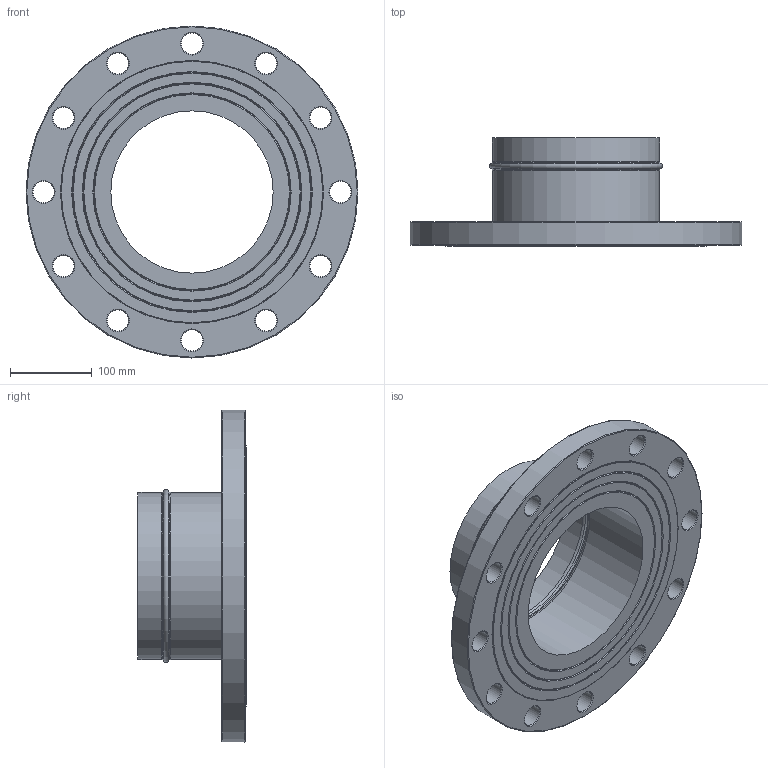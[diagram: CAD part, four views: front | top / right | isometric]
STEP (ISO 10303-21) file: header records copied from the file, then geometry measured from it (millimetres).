
FILE_DESCRIPTION(/* description */ (''),/* implementation_level */ '2;1');
FILE_NAME(/* name */ '30271121101.stp',/* time_stamp */ '2024-01-29T10:42:24+08:00',/* author */ (''),/* organization */ (''),/* preprocessor_version */ 'ST-DEVELOPER v11',/* originating_system */ 'SIEMENS PLM Software NX 7.5',/* authorisation */ '');
FILE_SCHEMA (('CONFIG_CONTROL_DESIGN'));
Length unit declared in the file: millimetre
Products named in the file (1): Admi5E3402l7
Bounding box: 405 x 132 x 405 mm (x, y, z)
Volume: 2864848.3 mm3; surface area: 399165 mm2
Topology: 1 solids, 1 shells, 68 faces, 153 edges, 92 vertices
Faces by surface type: cone 34, cylinder 17, torus 10, plane 7
Full cylindrical faces by diameter (mm): 26 x12, 198 x2, 204 x2, 405 x1
Entity records: 1622 total; most frequent: DIRECTION 298, CARTESIAN_POINT 229, FACE_BOUND 160, EDGE_LOOP 160, ORIENTED_EDGE 160, AXIS2_PLACEMENT_3D 149, VERTEX_POINT 80, EDGE_CURVE 80
